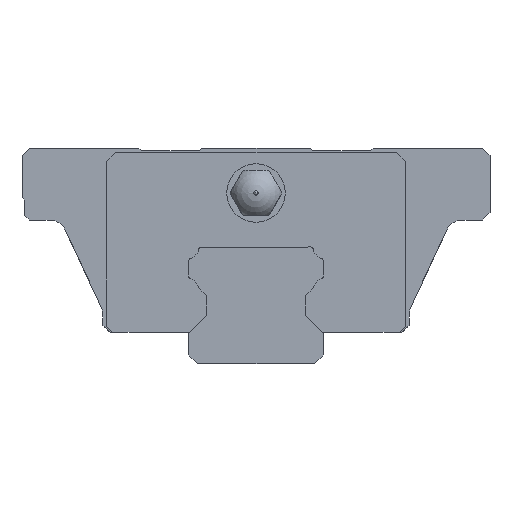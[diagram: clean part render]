
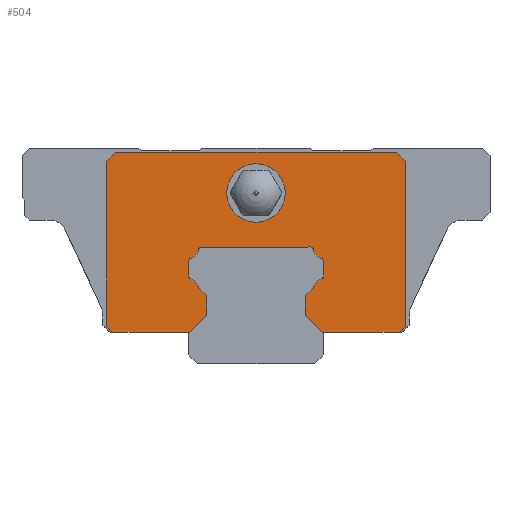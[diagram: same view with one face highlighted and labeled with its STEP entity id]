
A CAD part, front view. The second image highlights one B-rep face of the part: STEP entity #504.
In plain terms, the highlighted planar face has unit normal (0, -1, 0).
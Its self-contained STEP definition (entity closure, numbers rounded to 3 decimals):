
#181=FACE_BOUND('',#928,.T.);
#182=FACE_BOUND('',#929,.T.);
#336=CIRCLE('',#3286,0.3);
#338=CIRCLE('',#3289,1.4);
#340=CIRCLE('',#3296,1.4);
#342=CIRCLE('',#3299,0.3);
#344=CIRCLE('',#3303,0.3);
#346=CIRCLE('',#3306,1.4);
#348=CIRCLE('',#3309,0.3);
#350=CIRCLE('',#3312,0.3);
#352=CIRCLE('',#3315,1.4);
#354=CIRCLE('',#3318,0.3);
#358=CIRCLE('',#3345,3.25);
#504=ADVANCED_FACE('',(#181,#182),#627,.T.);
#627=PLANE('',#3347);
#928=EDGE_LOOP('',(#1651,#1652,#1653,#1654,#1655,#1656,#1657,#1658,#1659,#1660,#1661,#1662,#1663,#1664,#1665,#1666,#1667,#1668,#1669,#1670,#1671,#1672,#1673,#1674,#1675,#1676,#1677,#1678));
#929=EDGE_LOOP('',(#1679));
#1651=ORIENTED_EDGE('',*,*,#2464,.F.);
#1652=ORIENTED_EDGE('',*,*,#2428,.F.);
#1653=ORIENTED_EDGE('',*,*,#2425,.F.);
#1654=ORIENTED_EDGE('',*,*,#2422,.F.);
#1655=ORIENTED_EDGE('',*,*,#2419,.F.);
#1656=ORIENTED_EDGE('',*,*,#2416,.F.);
#1657=ORIENTED_EDGE('',*,*,#2462,.F.);
#1658=ORIENTED_EDGE('',*,*,#2460,.F.);
#1659=ORIENTED_EDGE('',*,*,#2457,.F.);
#1660=ORIENTED_EDGE('',*,*,#2468,.F.);
#1661=ORIENTED_EDGE('',*,*,#2453,.F.);
#1662=ORIENTED_EDGE('',*,*,#2450,.F.);
#1663=ORIENTED_EDGE('',*,*,#2447,.F.);
#1664=ORIENTED_EDGE('',*,*,#2444,.F.);
#1665=ORIENTED_EDGE('',*,*,#2441,.F.);
#1666=ORIENTED_EDGE('',*,*,#2438,.F.);
#1667=ORIENTED_EDGE('',*,*,#2435,.F.);
#1668=ORIENTED_EDGE('',*,*,#2432,.F.);
#1669=ORIENTED_EDGE('',*,*,#2466,.F.);
#1670=ORIENTED_EDGE('',*,*,#2385,.T.);
#1671=ORIENTED_EDGE('',*,*,#2478,.T.);
#1672=ORIENTED_EDGE('',*,*,#2481,.T.);
#1673=ORIENTED_EDGE('',*,*,#2483,.T.);
#1674=ORIENTED_EDGE('',*,*,#2485,.T.);
#1675=ORIENTED_EDGE('',*,*,#2487,.T.);
#1676=ORIENTED_EDGE('',*,*,#2490,.T.);
#1677=ORIENTED_EDGE('',*,*,#2491,.T.);
#1678=ORIENTED_EDGE('',*,*,#2366,.T.);
#1679=ORIENTED_EDGE('',*,*,#2493,.F.);
#2019=VERTEX_POINT('',#4827);
#2021=VERTEX_POINT('',#4830);
#2030=VERTEX_POINT('',#4858);
#2032=VERTEX_POINT('',#4863);
#2044=VERTEX_POINT('',#4921);
#2046=VERTEX_POINT('',#4925);
#2048=VERTEX_POINT('',#4930);
#2050=VERTEX_POINT('',#4936);
#2052=VERTEX_POINT('',#4942);
#2054=VERTEX_POINT('',#4948);
#2056=VERTEX_POINT('',#4954);
#2058=VERTEX_POINT('',#4958);
#2060=VERTEX_POINT('',#4963);
#2062=VERTEX_POINT('',#4969);
#2064=VERTEX_POINT('',#4975);
#2066=VERTEX_POINT('',#4981);
#2068=VERTEX_POINT('',#4987);
#2070=VERTEX_POINT('',#4993);
#2072=VERTEX_POINT('',#4999);
#2074=VERTEX_POINT('',#5005);
#2076=VERTEX_POINT('',#5009);
#2078=VERTEX_POINT('',#5014);
#2079=VERTEX_POINT('',#5051);
#2081=VERTEX_POINT('',#5057);
#2082=VERTEX_POINT('',#5061);
#2083=VERTEX_POINT('',#5065);
#2084=VERTEX_POINT('',#5069);
#2086=VERTEX_POINT('',#5075);
#2088=VERTEX_POINT('',#5083);
#2366=EDGE_CURVE('',#2021,#2019,#2720,.T.);
#2385=EDGE_CURVE('',#2030,#2032,#2735,.T.);
#2416=EDGE_CURVE('',#2046,#2044,#2758,.T.);
#2419=EDGE_CURVE('',#2044,#2048,#336,.T.);
#2422=EDGE_CURVE('',#2048,#2050,#338,.T.);
#2425=EDGE_CURVE('',#2050,#2052,#2763,.T.);
#2428=EDGE_CURVE('',#2052,#2054,#2766,.T.);
#2432=EDGE_CURVE('',#2058,#2056,#2770,.T.);
#2435=EDGE_CURVE('',#2056,#2060,#2773,.T.);
#2438=EDGE_CURVE('',#2060,#2062,#340,.T.);
#2441=EDGE_CURVE('',#2062,#2064,#342,.T.);
#2444=EDGE_CURVE('',#2064,#2066,#2778,.T.);
#2447=EDGE_CURVE('',#2066,#2068,#344,.T.);
#2450=EDGE_CURVE('',#2068,#2070,#346,.T.);
#2453=EDGE_CURVE('',#2070,#2072,#348,.T.);
#2457=EDGE_CURVE('',#2076,#2074,#350,.T.);
#2460=EDGE_CURVE('',#2074,#2078,#352,.T.);
#2462=EDGE_CURVE('',#2078,#2046,#354,.T.);
#2464=EDGE_CURVE('',#2054,#2019,#2786,.T.);
#2466=EDGE_CURVE('',#2030,#2058,#2788,.T.);
#2468=EDGE_CURVE('',#2072,#2076,#2790,.T.);
#2478=EDGE_CURVE('',#2032,#2079,#2800,.T.);
#2481=EDGE_CURVE('',#2079,#2081,#2802,.T.);
#2483=EDGE_CURVE('',#2081,#2082,#2804,.T.);
#2485=EDGE_CURVE('',#2082,#2083,#2806,.T.);
#2487=EDGE_CURVE('',#2083,#2084,#2808,.T.);
#2490=EDGE_CURVE('',#2084,#2086,#2810,.T.);
#2491=EDGE_CURVE('',#2086,#2021,#2811,.T.);
#2493=EDGE_CURVE('',#2088,#2088,#358,.T.);
#2720=LINE('',#4829,#3008);
#2735=LINE('',#4864,#3023);
#2758=LINE('',#4926,#3046);
#2763=LINE('',#4944,#3051);
#2766=LINE('',#4950,#3054);
#2770=LINE('',#4959,#3058);
#2773=LINE('',#4965,#3061);
#2778=LINE('',#4983,#3066);
#2786=LINE('',#5022,#3074);
#2788=LINE('',#5025,#3076);
#2790=LINE('',#5028,#3078);
#2800=LINE('',#5052,#3088);
#2802=LINE('',#5058,#3090);
#2804=LINE('',#5062,#3092);
#2806=LINE('',#5066,#3094);
#2808=LINE('',#5070,#3096);
#2810=LINE('',#5076,#3098);
#2811=LINE('',#5078,#3099);
#3008=VECTOR('',#3827,1.);
#3023=VECTOR('',#3858,1.);
#3046=VECTOR('',#3931,1.);
#3051=VECTOR('',#3950,1.);
#3054=VECTOR('',#3955,1.);
#3058=VECTOR('',#3961,1.);
#3061=VECTOR('',#3966,1.);
#3066=VECTOR('',#3985,1.);
#3074=VECTOR('',#4031,1.);
#3076=VECTOR('',#4035,1.);
#3078=VECTOR('',#4039,1.);
#3088=VECTOR('',#4075,1.);
#3090=VECTOR('',#4081,1.);
#3092=VECTOR('',#4085,1.);
#3094=VECTOR('',#4089,1.);
#3096=VECTOR('',#4093,1.);
#3098=VECTOR('',#4099,1.);
#3099=VECTOR('',#4102,1.);
#3286=AXIS2_PLACEMENT_3D('',#4932,#3937,#3938);
#3289=AXIS2_PLACEMENT_3D('',#4938,#3944,#3945);
#3296=AXIS2_PLACEMENT_3D('',#4971,#3972,#3973);
#3299=AXIS2_PLACEMENT_3D('',#4977,#3979,#3980);
#3303=AXIS2_PLACEMENT_3D('',#4989,#3991,#3992);
#3306=AXIS2_PLACEMENT_3D('',#4995,#3998,#3999);
#3309=AXIS2_PLACEMENT_3D('',#5001,#4005,#4006);
#3312=AXIS2_PLACEMENT_3D('',#5010,#4013,#4014);
#3315=AXIS2_PLACEMENT_3D('',#5016,#4020,#4021);
#3318=AXIS2_PLACEMENT_3D('',#5019,#4026,#4027);
#3345=AXIS2_PLACEMENT_3D('',#5082,#4107,#4108);
#3347=AXIS2_PLACEMENT_3D('',#5085,#4111,#4112);
#3827=DIRECTION('',(1.,0.,0.));
#3858=DIRECTION('',(1.,0.,0.));
#3931=DIRECTION('',(0.,0.,-1.));
#3937=DIRECTION('',(0.,-1.,0.));
#3938=DIRECTION('',(0.,0.,-1.));
#3944=DIRECTION('',(0.,1.,0.));
#3945=DIRECTION('',(0.,0.,-1.));
#3950=DIRECTION('',(0.707,0.,-0.707));
#3955=DIRECTION('',(0.,0.,-1.));
#3961=DIRECTION('',(0.,0.,1.));
#3966=DIRECTION('',(0.707,0.,0.707));
#3972=DIRECTION('',(0.,1.,0.));
#3973=DIRECTION('',(0.,0.,-1.));
#3979=DIRECTION('',(0.,-1.,0.));
#3980=DIRECTION('',(0.,0.,-1.));
#3985=DIRECTION('',(0.,0.,1.));
#3991=DIRECTION('',(0.,-1.,0.));
#3992=DIRECTION('',(0.,0.,-1.));
#3998=DIRECTION('',(0.,1.,0.));
#3999=DIRECTION('',(0.,0.,-1.));
#4005=DIRECTION('',(0.,-1.,0.));
#4006=DIRECTION('',(0.,0.,-1.));
#4013=DIRECTION('',(0.,-1.,0.));
#4014=DIRECTION('',(0.,0.,-1.));
#4020=DIRECTION('',(0.,1.,0.));
#4021=DIRECTION('',(0.,0.,-1.));
#4026=DIRECTION('',(0.,-1.,0.));
#4027=DIRECTION('',(0.,0.,-1.));
#4031=DIRECTION('',(-0.707,0.,-0.707));
#4035=DIRECTION('',(-0.707,0.,0.707));
#4039=DIRECTION('',(-1.,0.,0.));
#4075=DIRECTION('',(0.707,0.,0.707));
#4081=DIRECTION('',(0.,0.,1.));
#4085=DIRECTION('',(-0.707,0.,0.707));
#4089=DIRECTION('',(-1.,0.,0.));
#4093=DIRECTION('',(-0.707,0.,-0.707));
#4099=DIRECTION('',(0.,0.,-1.));
#4102=DIRECTION('',(0.707,0.,-0.707));
#4107=DIRECTION('',(0.,-1.,0.));
#4108=DIRECTION('',(1.,0.,0.));
#4111=DIRECTION('',(0.,-1.,0.));
#4112=DIRECTION('',(0.,0.,-1.));
#4827=CARTESIAN_POINT('',(-7.4,0.,3.5));
#4829=CARTESIAN_POINT('',(-15.9,0.,3.5));
#4830=CARTESIAN_POINT('',(-15.9,0.,3.5));
#4858=CARTESIAN_POINT('',(7.4,0.,3.5));
#4863=CARTESIAN_POINT('',(15.9,0.,3.5));
#4864=CARTESIAN_POINT('',(-15.9,0.,3.5));
#4921=CARTESIAN_POINT('',(-7.5,0.,9.772));
#4925=CARTESIAN_POINT('',(-7.5,0.,11.428));
#4926=CARTESIAN_POINT('',(-7.5,0.,19.));
#4930=CARTESIAN_POINT('',(-7.295,0.,9.488));
#4932=CARTESIAN_POINT('',(-7.2,0.,9.772));
#4936=CARTESIAN_POINT('',(-6.376,0.,8.476));
#4938=CARTESIAN_POINT('',(-7.74,0.,8.16));
#4942=CARTESIAN_POINT('',(-5.5,0.,7.6));
#4944=CARTESIAN_POINT('',(-8.45,0.,10.55));
#4948=CARTESIAN_POINT('',(-5.5,0.,5.4));
#4950=CARTESIAN_POINT('',(-5.5,0.,19.));
#4954=CARTESIAN_POINT('',(5.5,0.,7.6));
#4958=CARTESIAN_POINT('',(5.5,0.,5.4));
#4959=CARTESIAN_POINT('',(5.5,0.,19.));
#4963=CARTESIAN_POINT('',(6.376,0.,8.476));
#4965=CARTESIAN_POINT('',(8.45,0.,10.55));
#4969=CARTESIAN_POINT('',(7.295,0.,9.488));
#4971=CARTESIAN_POINT('',(7.74,0.,8.16));
#4975=CARTESIAN_POINT('',(7.5,0.,9.772));
#4977=CARTESIAN_POINT('',(7.2,0.,9.772));
#4981=CARTESIAN_POINT('',(7.5,0.,11.428));
#4983=CARTESIAN_POINT('',(7.5,0.,19.));
#4987=CARTESIAN_POINT('',(7.295,0.,11.712));
#4989=CARTESIAN_POINT('',(7.2,0.,11.428));
#4993=CARTESIAN_POINT('',(6.368,0.,12.76));
#4995=CARTESIAN_POINT('',(7.74,0.,13.04));
#4999=CARTESIAN_POINT('',(6.074,0.,13.));
#5001=CARTESIAN_POINT('',(6.074,0.,12.7));
#5005=CARTESIAN_POINT('',(-6.368,0.,12.76));
#5009=CARTESIAN_POINT('',(-6.074,0.,13.));
#5010=CARTESIAN_POINT('',(-6.074,0.,12.7));
#5014=CARTESIAN_POINT('',(-7.295,0.,11.712));
#5016=CARTESIAN_POINT('',(-7.74,0.,13.04));
#5019=CARTESIAN_POINT('',(-7.2,0.,11.428));
#5022=CARTESIAN_POINT('',(4.05,0.,14.95));
#5025=CARTESIAN_POINT('',(-4.05,0.,14.95));
#5028=CARTESIAN_POINT('',(0.,0.,13.));
#5051=CARTESIAN_POINT('',(16.6,0.,4.2));
#5052=CARTESIAN_POINT('',(15.9,0.,3.5));
#5057=CARTESIAN_POINT('',(16.6,0.,22.5));
#5058=CARTESIAN_POINT('',(16.6,0.,4.2));
#5061=CARTESIAN_POINT('',(15.6,0.,23.5));
#5062=CARTESIAN_POINT('',(16.6,0.,22.5));
#5065=CARTESIAN_POINT('',(-15.6,0.,23.5));
#5066=CARTESIAN_POINT('',(15.6,0.,23.5));
#5069=CARTESIAN_POINT('',(-16.6,0.,22.5));
#5070=CARTESIAN_POINT('',(-15.6,0.,23.5));
#5075=CARTESIAN_POINT('',(-16.6,0.,4.2));
#5076=CARTESIAN_POINT('',(-16.6,0.,22.5));
#5078=CARTESIAN_POINT('',(-16.6,0.,4.2));
#5082=CARTESIAN_POINT('',(0.,0.,19.));
#5083=CARTESIAN_POINT('',(3.25,0.,19.));
#5085=CARTESIAN_POINT('',(0.,0.,19.));
